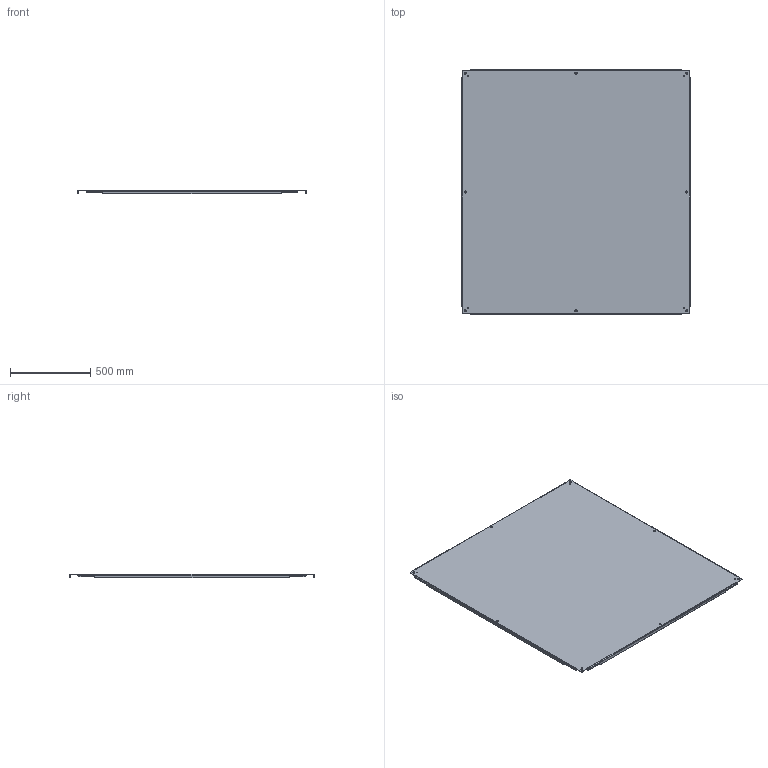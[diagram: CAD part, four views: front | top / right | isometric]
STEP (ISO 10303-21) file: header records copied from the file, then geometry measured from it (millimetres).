
FILE_DESCRIPTION((''),'2;1');
FILE_NAME('MODEL-075_ASM','2020-05-07T09:23:34',('joelb'),('SAGINAW CONTROL & ENGINEERING'),'CREO PARAMETRIC BY PTC INC, 2017260','CREO PARAMETRIC BY PTC INC, 2017260','');
FILE_SCHEMA(('AUTOMOTIVE_DESIGN { 1 0 10303 214 1 1 1 1 }'));
Length unit declared in the file: inch
Products named in the file (3): MODEL-075-SUBPNL; SCE-FSPS8; MODEL-075_ASM
Assembly tree (2 placements, depth 2):
  MODEL-075_ASM
    MODEL-075-SUBPNL
    SCE-FSPS8
Bounding box: 1420.81 x 1522.41 x 22.23 mm (x, y, z)
Volume: 7136712 mm3; surface area: 4515822.9 mm2
Topology: 1 solids, 1 shells, 130 faces, 352 edges, 224 vertices
Faces by surface type: plane 54, cylinder 52, bspline 24
Entity records: 7642 total; most frequent: CARTESIAN_POINT 1379, ORIENTED_EDGE 704, DIRECTION 678, PRESENTATION_STYLE_ASSIGNMENT 483, STYLED_ITEM 483, CURVE_STYLE 352, EDGE_CURVE 352, AXIS2_PLACEMENT_3D 231
